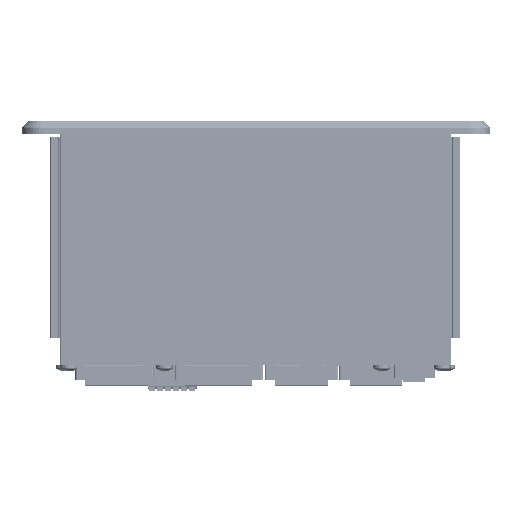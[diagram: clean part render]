
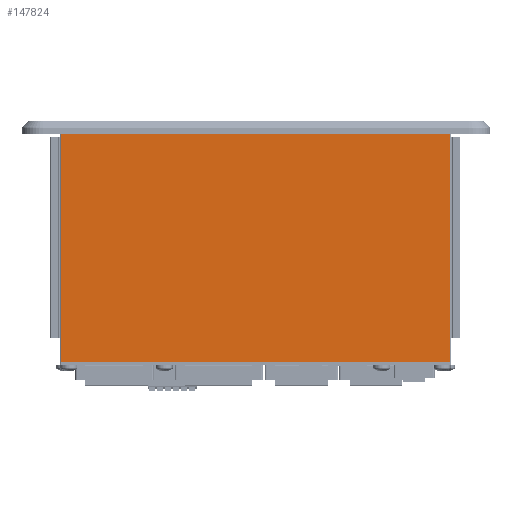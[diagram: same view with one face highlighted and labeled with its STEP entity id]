
A CAD part, front view. The second image highlights one B-rep face of the part: STEP entity #147824.
In plain terms, the highlighted planar face has unit normal (0, -1, 0).
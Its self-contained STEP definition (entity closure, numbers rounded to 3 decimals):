
#10209=PLANE('',#155346);
#15584=FACE_OUTER_BOUND('',#22617,.T.);
#22617=EDGE_LOOP('',(#109378,#109379,#109380,#109381));
#30738=LINE('',#210376,#47455);
#30752=LINE('',#210429,#47469);
#30773=LINE('',#210501,#47490);
#30774=LINE('',#210502,#47491);
#47455=VECTOR('',#168575,1000.);
#47469=VECTOR('',#168619,1000.);
#47490=VECTOR('',#168684,1000.);
#47491=VECTOR('',#168685,1000.);
#68332=VERTEX_POINT('',#210373);
#68333=VERTEX_POINT('',#210375);
#68356=VERTEX_POINT('',#210426);
#68357=VERTEX_POINT('',#210428);
#85097=EDGE_CURVE('',#68333,#68332,#30738,.T.);
#85124=EDGE_CURVE('',#68356,#68357,#30752,.T.);
#85162=EDGE_CURVE('',#68357,#68332,#30773,.T.);
#85163=EDGE_CURVE('',#68333,#68356,#30774,.T.);
#109378=ORIENTED_EDGE('',*,*,#85162,.F.);
#109379=ORIENTED_EDGE('',*,*,#85124,.F.);
#109380=ORIENTED_EDGE('',*,*,#85163,.F.);
#109381=ORIENTED_EDGE('',*,*,#85097,.T.);
#147824=ADVANCED_FACE('',(#15584),#10209,.F.);
#155346=AXIS2_PLACEMENT_3D('',#210500,#168682,#168683);
#168575=DIRECTION('',(1.,0.,0.));
#168619=DIRECTION('',(1.,0.,0.));
#168682=DIRECTION('center_axis',(0.,1.,0.));
#168683=DIRECTION('ref_axis',(0.,0.,1.));
#168684=DIRECTION('',(0.,0.,-1.));
#168685=DIRECTION('',(0.,0.,1.));
#210373=CARTESIAN_POINT('',(156.825,21.309,0.));
#210375=CARTESIAN_POINT('',(-26.975,21.309,0.));
#210376=CARTESIAN_POINT('',(0.,21.309,0.));
#210426=CARTESIAN_POINT('',(-26.975,21.309,108.));
#210428=CARTESIAN_POINT('',(156.825,21.309,108.));
#210429=CARTESIAN_POINT('',(0.,21.309,108.));
#210500=CARTESIAN_POINT('Origin',(0.,21.309,108.));
#210501=CARTESIAN_POINT('',(156.825,21.309,108.));
#210502=CARTESIAN_POINT('',(-26.975,21.309,108.));
